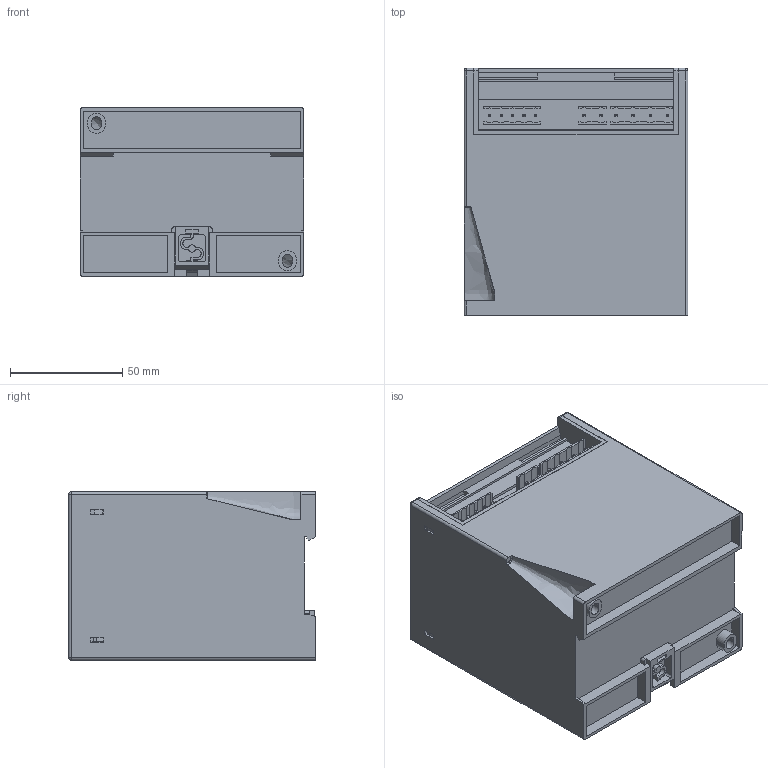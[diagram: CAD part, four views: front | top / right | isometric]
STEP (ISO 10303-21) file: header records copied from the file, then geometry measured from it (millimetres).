
FILE_DESCRIPTION(/* description */ ('STEP AP214'),/* implementation_level */ '2;1');
FILE_NAME(/* name */ 'KCM13M126x.step',/* time_stamp */ '2024-11-06T16:19:33Z',/* author */ (''),/* organization */ (''),/* preprocessor_version */ 'ST-DEVELOPER v20',/* originating_system */ 'Autodesk Translation Framework v13.20.0.188',/* authorisation */ '');
FILE_SCHEMA (('AUTOMOTIVE_DESIGN { 1 0 10303 214 3 1 1 }'));
Products named in the file (10): 414165; 053164; 413962; KCC-Headers; 7.62mm Header v2; 5.08 Header v2; 5.08 Header v3; 5.08 Header v4; 7.62mm Header v3; smt-5ja-1x1-8p8c-s-ext
Assembly tree (13 placements, depth 3):
  414165
    053164  x2
    413962
    KCC-Headers
      7.62mm Header v2
      7.62mm Header v3  x2
      5.08 Header v2
      5.08 Header v3
      5.08 Header v4
    smt-5ja-1x1-8p8c-s-ext  x3
Bounding box: 99.7 x 110 x 75 mm (x, y, z)
Volume: 100341.7 mm3; surface area: 145603.5 mm2
Topology: 72 solids, 72 shells, 6477 faces, 17148 edges, 11131 vertices
Faces by surface type: plane 3431, bspline 2443, cylinder 599, sphere 4
Full cylindrical faces by diameter (mm): 0.861 x1, 1.743 x1, 4.5 x1, 4.6 x6, 5 x1, 5.1 x2, 7 x5, 7.5 x5
Entity records: 195711 total; most frequent: CARTESIAN_POINT 78348, ORIENTED_EDGE 28512, DIRECTION 15934, EDGE_CURVE 14256, VERTEX_POINT 9382, LINE 8846, VECTOR 8846, EDGE_LOOP 5628
